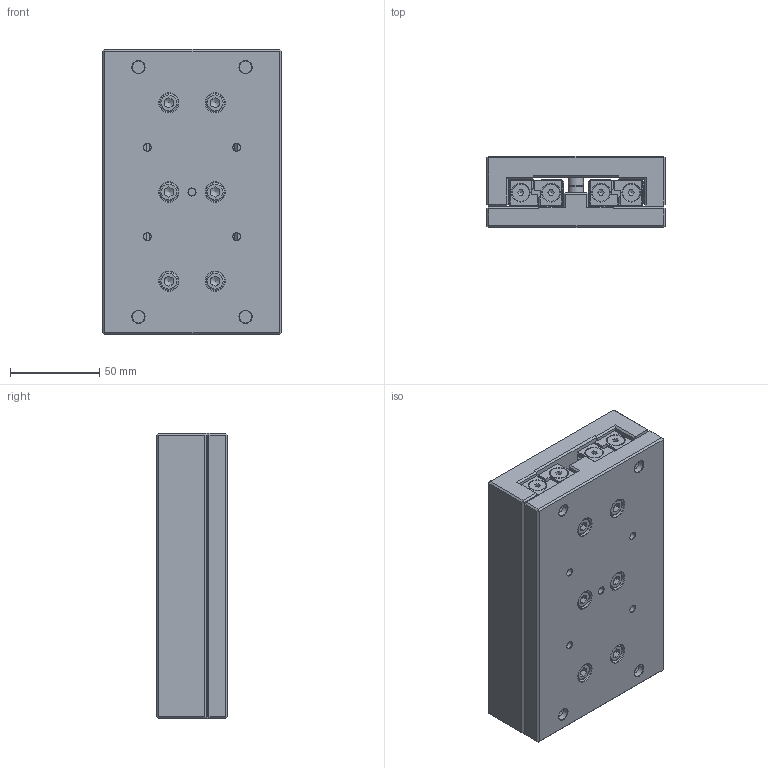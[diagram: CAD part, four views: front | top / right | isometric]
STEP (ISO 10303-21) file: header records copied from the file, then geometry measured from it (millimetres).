
FILE_DESCRIPTION(/* description */ ('Tavola TRL06 L=160 mm'),/* implementation_level */ '2;1');
FILE_NAME(/* name */ 'TRL060160-00.stp',/* time_stamp */ '2024-02-07T08:54:00+01:00',/* author */ ('Rosa sistemi'),/* organization */ (''),/* preprocessor_version */ 'ST-DEVELOPER v20',/* originating_system */ 'Autodesk Inventor 2024',/* authorisation */ '');
FILE_SCHEMA (('AUTOMOTIVE_DESIGN { 1 0 10303 214 3 1 1 }'));
Length unit declared in the file: millimetre
Products named in the file (2): TRL060160-00; TRL060160-00_1
Assembly tree (1 placements, depth 2):
  TRL060160-00
    TRL060160-00_1
Bounding box: 100 x 40 x 160 mm (x, y, z)
Volume: 574394.5 mm3; surface area: 124115.1 mm2
Topology: 10 solids, 10 shells, 1527 faces, 4011 edges, 2600 vertices
Faces by surface type: plane 1002, bspline 196, cylinder 181, cone 113, torus 35
Full cylindrical faces by diameter (mm): 1.548 x5, 4.134 x17, 4.256 x5, 6 x18, 7 x4, 8.5 x3, 9.5 x12, 9.64 x8, 10 x12, 11 x16
Entity records: 48460 total; most frequent: CARTESIAN_POINT 11043, ORIENTED_EDGE 7970, DIRECTION 6806, EDGE_CURVE 3985, LINE 2668, VECTOR 2668, VERTEX_POINT 2600, AXIS2_PLACEMENT_3D 2069
